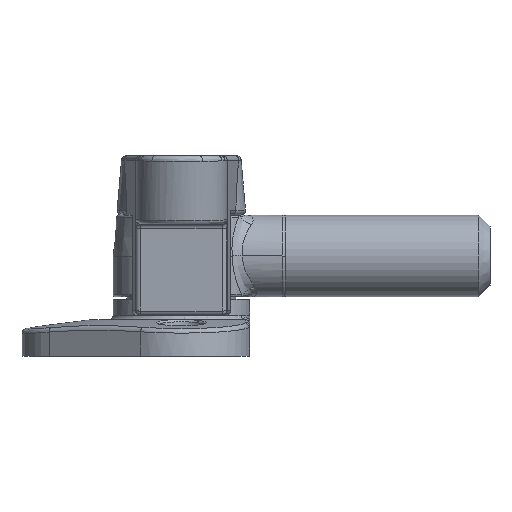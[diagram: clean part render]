
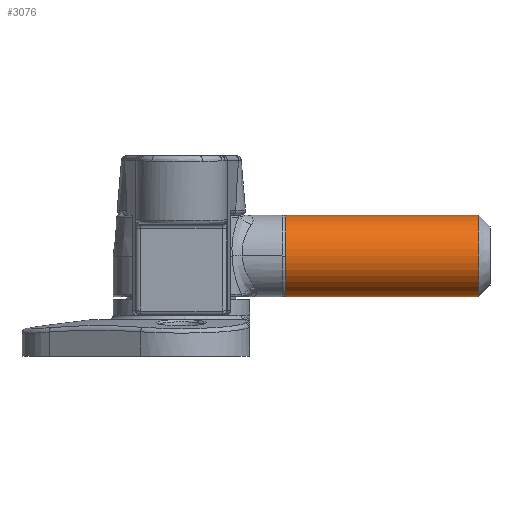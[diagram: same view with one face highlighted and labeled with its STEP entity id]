
A CAD part, front view. The second image highlights one B-rep face of the part: STEP entity #3076.
In plain terms, the highlighted cylindrical face has radius 9 mm (diameter 18 mm), a partial arc.
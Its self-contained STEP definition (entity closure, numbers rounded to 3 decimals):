
#1098 = CARTESIAN_POINT ( 'NONE',  ( 0., 0., 42.5 ) ) ;
#1099 = DIRECTION ( 'NONE',  ( 0., 0., -1. ) ) ;
#1100 = DIRECTION ( 'NONE',  ( 1., 0., 0. ) ) ;
#1105 = CARTESIAN_POINT ( 'NONE',  ( 0., 0., 0. ) ) ;
#1106 = DIRECTION ( 'NONE',  ( 0., 0., 1. ) ) ;
#1107 = DIRECTION ( 'NONE',  ( 1., 0., 0. ) ) ;
#3076 = ADVANCED_FACE ( 'NONE', ( #6804 ), #6807, .T. ) ;
#3403 = VERTEX_POINT ( 'NONE', #7712 ) ;
#3460 = VERTEX_POINT ( 'NONE', #7769 ) ;
#3461 = VERTEX_POINT ( 'NONE', #7770 ) ;
#3463 = VERTEX_POINT ( 'NONE', #7772 ) ;
#3698 = EDGE_LOOP ( 'NONE', ( #7390, #8457, #7355, #7428 ) ) ;
#4197 = EDGE_CURVE ( 'NONE', #3403, #3463, #9862, .T. ) ;
#4201 = EDGE_CURVE ( 'NONE', #3460, #3461, #9869, .T. ) ;
#4983 = CARTESIAN_POINT ( 'NONE',  ( -9., 0., 45. ) ) ;
#4992 = DIRECTION ( 'NONE',  ( 0., 0., -1. ) ) ;
#4996 = CARTESIAN_POINT ( 'NONE',  ( 9., 0., 45. ) ) ;
#4997 = DIRECTION ( 'NONE',  ( 0., 0., -1. ) ) ;
#5335 = DIRECTION ( 'NONE',  ( 0., 0., -1. ) ) ;
#5368 = DIRECTION ( 'NONE',  ( -1., 0., 0. ) ) ;
#5370 = CARTESIAN_POINT ( 'NONE',  ( 0., 0., 45. ) ) ;
#5950 = AXIS2_PLACEMENT_3D ( 'NONE', #5370, #5335, #5368 ) ;
#6219 = AXIS2_PLACEMENT_3D ( 'NONE', #1098, #1099, #1100 ) ;
#6220 = AXIS2_PLACEMENT_3D ( 'NONE', #1105, #1106, #1107 ) ;
#6804 = FACE_OUTER_BOUND ( 'NONE', #3698, .T. ) ;
#6807 = CYLINDRICAL_SURFACE ( 'NONE', #5950, 9. ) ;
#7355 = ORIENTED_EDGE ( 'NONE', *, *, #4197, .T. ) ;
#7390 = ORIENTED_EDGE ( 'NONE', *, *, #4201, .F. ) ;
#7428 = ORIENTED_EDGE ( 'NONE', *, *, #10188, .T. ) ;
#7712 = CARTESIAN_POINT ( 'NONE',  ( -9., 0., 42.5 ) ) ;
#7769 = CARTESIAN_POINT ( 'NONE',  ( 9., 0., 42.5 ) ) ;
#7770 = CARTESIAN_POINT ( 'NONE',  ( 9., 0., 0. ) ) ;
#7772 = CARTESIAN_POINT ( 'NONE',  ( -9., 0., 0. ) ) ;
#8457 = ORIENTED_EDGE ( 'NONE', *, *, #10186, .T. ) ;
#9617 = CIRCLE ( 'NONE', #6220, 9. ) ;
#9625 = CIRCLE ( 'NONE', #6219, 9. ) ;
#9862 = LINE ( 'NONE', #4983, #9866 ) ;
#9866 = VECTOR ( 'NONE', #4992, 1000. ) ;
#9869 = LINE ( 'NONE', #4996, #9871 ) ;
#9871 = VECTOR ( 'NONE', #4997, 1000. ) ;
#10186 = EDGE_CURVE ( 'NONE', #3460, #3403, #9625, .T. ) ;
#10188 = EDGE_CURVE ( 'NONE', #3463, #3461, #9617, .T. ) ;
